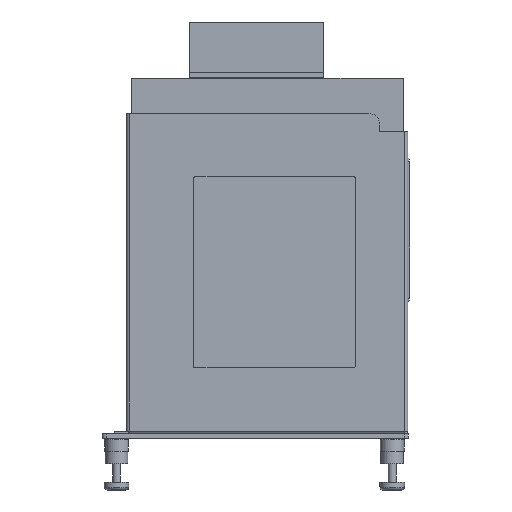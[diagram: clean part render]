
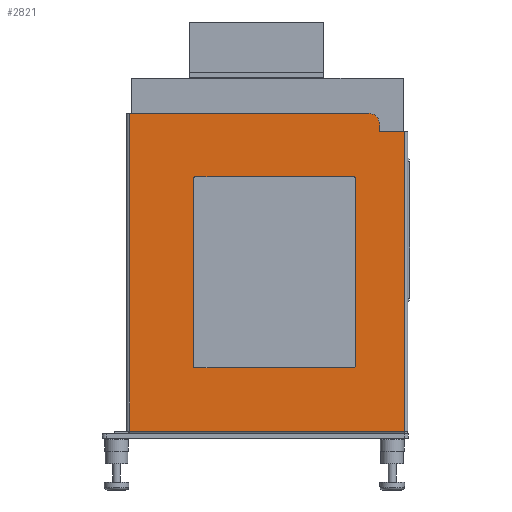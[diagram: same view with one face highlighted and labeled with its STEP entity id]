
A CAD part, front view. The second image highlights one B-rep face of the part: STEP entity #2821.
In plain terms, the highlighted planar face has unit normal (0, -1, 0).
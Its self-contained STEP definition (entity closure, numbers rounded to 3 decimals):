
#572=DIRECTION('',(1.,0.,0.));
#573=VECTOR('',#572,7.2);
#574=CARTESIAN_POINT('',(29.8,-4.6,5.));
#575=LINE('',#574,#573);
#576=DIRECTION('',(-1.,0.,0.));
#577=VECTOR('',#576,67.8);
#578=CARTESIAN_POINT('',(26.8,-4.6,10.));
#579=LINE('',#578,#577);
#580=CARTESIAN_POINT('',(26.8,-4.6,7.));
#581=DIRECTION('',(0.,-1.,0.));
#582=DIRECTION('',(1.,0.,0.));
#583=AXIS2_PLACEMENT_3D('',#580,#581,#582);
#585=DIRECTION('',(0.,0.,1.));
#586=VECTOR('',#585,2.);
#587=CARTESIAN_POINT('',(29.8,-4.6,5.));
#588=LINE('',#587,#586);
#589=CARTESIAN_POINT('',(-22.5,-4.6,-8.5));
#590=DIRECTION('',(0.,1.,0.));
#591=DIRECTION('',(-1.,0.,0.));
#592=AXIS2_PLACEMENT_3D('',#589,#590,#591);
#594=DIRECTION('',(0.,0.,1.));
#595=VECTOR('',#594,53.);
#596=CARTESIAN_POINT('',(-23.,-4.6,-61.5));
#597=LINE('',#596,#595);
#598=CARTESIAN_POINT('',(-22.5,-4.6,-61.5));
#599=DIRECTION('',(0.,1.,0.));
#600=DIRECTION('',(0.,0.,-1.));
#601=AXIS2_PLACEMENT_3D('',#598,#599,#600);
#603=DIRECTION('',(-1.,0.,0.));
#604=VECTOR('',#603,45.);
#605=CARTESIAN_POINT('',(22.5,-4.6,-62.));
#606=LINE('',#605,#604);
#607=CARTESIAN_POINT('',(22.5,-4.6,-61.5));
#608=DIRECTION('',(0.,1.,0.));
#609=DIRECTION('',(1.,0.,0.));
#610=AXIS2_PLACEMENT_3D('',#607,#608,#609);
#612=DIRECTION('',(0.,0.,-1.));
#613=VECTOR('',#612,53.);
#614=CARTESIAN_POINT('',(23.,-4.6,-8.5));
#615=LINE('',#614,#613);
#616=CARTESIAN_POINT('',(22.5,-4.6,-8.5));
#617=DIRECTION('',(0.,1.,0.));
#618=DIRECTION('',(0.,0.,1.));
#619=AXIS2_PLACEMENT_3D('',#616,#617,#618);
#621=DIRECTION('',(1.,0.,0.));
#622=VECTOR('',#621,45.);
#623=CARTESIAN_POINT('',(-22.5,-4.6,-8.));
#624=LINE('',#623,#622);
#788=DIRECTION('',(-1.,0.,0.));
#789=VECTOR('',#788,78.);
#790=CARTESIAN_POINT('',(37.,-4.6,-80.));
#791=LINE('',#790,#789);
#800=DIRECTION('',(0.,0.,1.));
#801=VECTOR('',#800,90.);
#802=CARTESIAN_POINT('',(-41.,-4.6,-80.));
#803=LINE('',#802,#801);
#808=DIRECTION('',(0.,0.,-1.));
#809=VECTOR('',#808,85.);
#810=CARTESIAN_POINT('',(37.,-4.6,5.));
#811=LINE('',#810,#809);
#1647=CARTESIAN_POINT('',(37.,-4.6,-80.));
#1648=VERTEX_POINT('',#1647);
#1659=CARTESIAN_POINT('',(29.8,-4.6,5.));
#1660=VERTEX_POINT('',#1659);
#1661=CARTESIAN_POINT('',(37.,-4.6,5.));
#1662=VERTEX_POINT('',#1661);
#1673=CARTESIAN_POINT('',(29.8,-4.6,7.));
#1674=VERTEX_POINT('',#1673);
#1679=CARTESIAN_POINT('',(-41.,-4.6,10.));
#1680=VERTEX_POINT('',#1679);
#1681=CARTESIAN_POINT('',(26.8,-4.6,10.));
#1682=VERTEX_POINT('',#1681);
#1725=CARTESIAN_POINT('',(-41.,-4.6,-80.));
#1726=VERTEX_POINT('',#1725);
#1741=CARTESIAN_POINT('',(-23.,-4.6,-8.5));
#1742=CARTESIAN_POINT('',(-22.5,-4.6,-8.));
#1743=VERTEX_POINT('',#1741);
#1744=VERTEX_POINT('',#1742);
#1757=CARTESIAN_POINT('',(22.5,-4.6,-8.));
#1758=VERTEX_POINT('',#1757);
#1759=CARTESIAN_POINT('',(-23.,-4.6,-61.5));
#1760=VERTEX_POINT('',#1759);
#1767=CARTESIAN_POINT('',(23.,-4.6,-8.5));
#1768=VERTEX_POINT('',#1767);
#1769=CARTESIAN_POINT('',(-22.5,-4.6,-62.));
#1770=VERTEX_POINT('',#1769);
#1777=CARTESIAN_POINT('',(23.,-4.6,-61.5));
#1778=VERTEX_POINT('',#1777);
#1781=CARTESIAN_POINT('',(22.5,-4.6,-62.));
#1782=VERTEX_POINT('',#1781);
#2784=CARTESIAN_POINT('',(0.,-4.6,0.));
#2785=DIRECTION('',(0.,1.,0.));
#2786=DIRECTION('',(0.,0.,1.));
#2787=AXIS2_PLACEMENT_3D('',#2784,#2785,#2786);
#2788=PLANE('',#2787);
#2790=ORIENTED_EDGE('',*,*,#2789,.F.);
#2792=ORIENTED_EDGE('',*,*,#2791,.F.);
#2793=ORIENTED_EDGE('',*,*,#2775,.F.);
#2794=ORIENTED_EDGE('',*,*,#2765,.T.);
#2796=ORIENTED_EDGE('',*,*,#2795,.T.);
#2798=ORIENTED_EDGE('',*,*,#2797,.T.);
#2800=ORIENTED_EDGE('',*,*,#2799,.T.);
#2801=EDGE_LOOP('',(#2790,#2792,#2793,#2794,#2796,#2798,#2800));
#2802=FACE_OUTER_BOUND('',#2801,.F.);
#2804=ORIENTED_EDGE('',*,*,#2803,.F.);
#2806=ORIENTED_EDGE('',*,*,#2805,.F.);
#2808=ORIENTED_EDGE('',*,*,#2807,.F.);
#2810=ORIENTED_EDGE('',*,*,#2809,.F.);
#2812=ORIENTED_EDGE('',*,*,#2811,.F.);
#2814=ORIENTED_EDGE('',*,*,#2813,.F.);
#2816=ORIENTED_EDGE('',*,*,#2815,.F.);
#2818=ORIENTED_EDGE('',*,*,#2817,.F.);
#2819=EDGE_LOOP('',(#2804,#2806,#2808,#2810,#2812,#2814,#2816,#2818));
#2820=FACE_BOUND('',#2819,.F.);
#2821=ADVANCED_FACE('',(#2802,#2820),#2788,.F.);
#584=CIRCLE('',#583,3.);
#593=CIRCLE('',#592,0.5);
#602=CIRCLE('',#601,0.5);
#611=CIRCLE('',#610,0.5);
#620=CIRCLE('',#619,0.5);
#2765=EDGE_CURVE('',#1660,#1662,#575,.T.);
#2775=EDGE_CURVE('',#1660,#1674,#588,.T.);
#2789=EDGE_CURVE('',#1682,#1680,#579,.T.);
#2791=EDGE_CURVE('',#1674,#1682,#584,.T.);
#2795=EDGE_CURVE('',#1662,#1648,#811,.T.);
#2797=EDGE_CURVE('',#1648,#1726,#791,.T.);
#2799=EDGE_CURVE('',#1726,#1680,#803,.T.);
#2803=EDGE_CURVE('',#1743,#1744,#593,.T.);
#2805=EDGE_CURVE('',#1760,#1743,#597,.T.);
#2807=EDGE_CURVE('',#1770,#1760,#602,.T.);
#2809=EDGE_CURVE('',#1782,#1770,#606,.T.);
#2811=EDGE_CURVE('',#1778,#1782,#611,.T.);
#2813=EDGE_CURVE('',#1768,#1778,#615,.T.);
#2815=EDGE_CURVE('',#1758,#1768,#620,.T.);
#2817=EDGE_CURVE('',#1744,#1758,#624,.T.);
